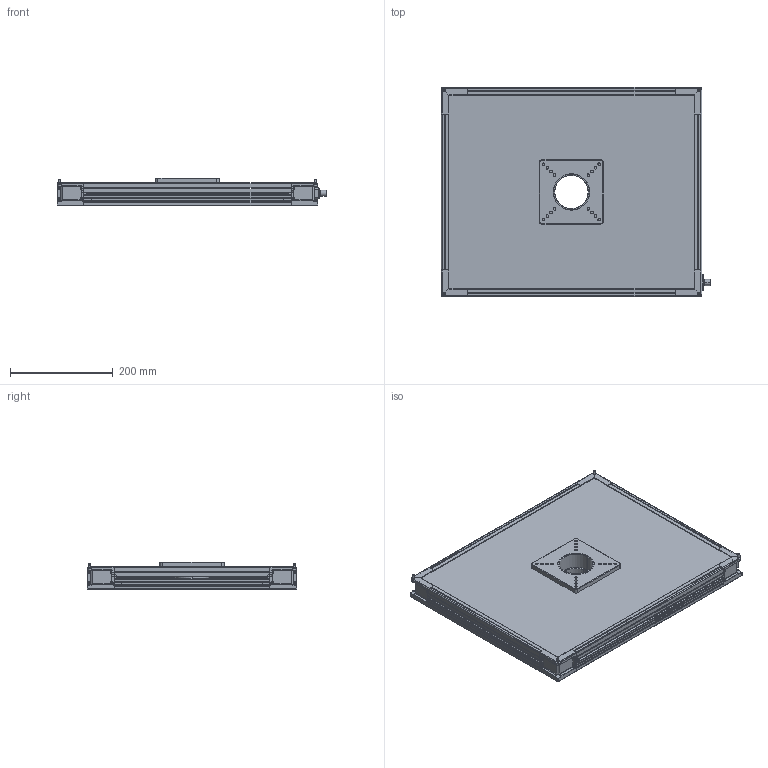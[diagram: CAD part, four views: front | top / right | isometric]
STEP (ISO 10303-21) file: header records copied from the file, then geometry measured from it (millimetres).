
FILE_DESCRIPTION (( 'STEP AP214' ), '1' );
FILE_NAME ('HPFD-5040.STEP', '2019-09-18T11:12:36', ( '' ), ( '' ), 'SwSTEP 2.0', 'SolidWorks 2014', '' );
FILE_SCHEMA (( 'AUTOMOTIVE_DESIGN' ));
Length unit declared in the file: millimetre
Products named in the file (1): HPFD-5040
Bounding box: 525.8 x 408 x 53.85 mm (x, y, z)
Surface area: 587133.7 mm2 (no closed solid volume)
Topology: 0 solids, 65 shells, 1055 faces, 5292 edges, 4147 vertices
Faces by surface type: cylinder 482, plane 421, bspline 122, cone 30
Entity records: 78689 total; most frequent: CARTESIAN_POINT 29221, ORIENTED_EDGE 7332, DIRECTION 6900, EDGE_CURVE 5290, VERTEX_POINT 4147, VECTOR 2522, LINE 2522, AXIS2_PLACEMENT_3D 2189
